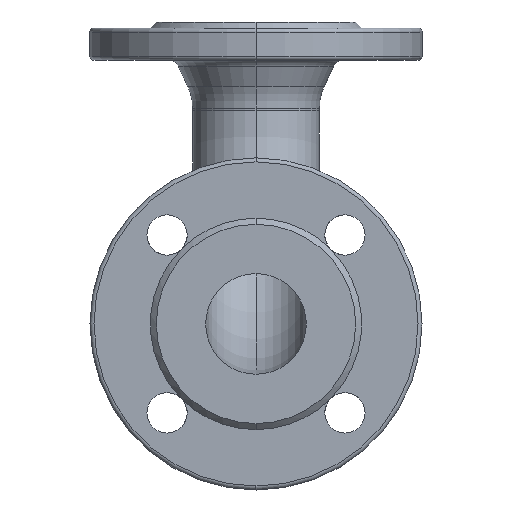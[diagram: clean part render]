
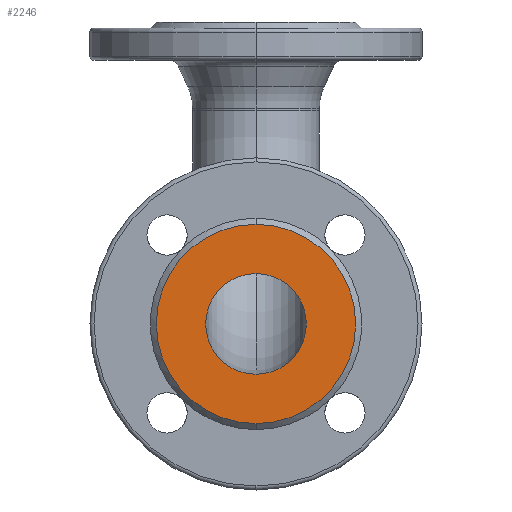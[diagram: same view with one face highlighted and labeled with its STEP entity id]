
A CAD part, left-side view. The second image highlights one B-rep face of the part: STEP entity #2246.
In plain terms, the highlighted planar face has unit normal (-1, 0, 0).
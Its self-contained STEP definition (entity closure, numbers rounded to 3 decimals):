
#80 = AXIS2_PLACEMENT_3D ( 'NONE', #1312, #1544, #2596 ) ;
#147 = CIRCLE ( 'NONE', #255, 25. ) ;
#185 = ORIENTED_EDGE ( 'NONE', *, *, #1021, .F. ) ;
#255 = AXIS2_PLACEMENT_3D ( 'NONE', #2500, #1725, #1232 ) ;
#495 = EDGE_LOOP ( 'NONE', ( #185, #2450 ) ) ;
#520 = DIRECTION ( 'NONE',  ( 1., 0., 0. ) ) ;
#529 = VERTEX_POINT ( 'NONE', #2278 ) ;
#654 = VERTEX_POINT ( 'NONE', #2329 ) ;
#757 = CARTESIAN_POINT ( 'NONE',  ( -150., 0., -199.5 ) ) ;
#804 = CARTESIAN_POINT ( 'NONE',  ( -150., 0., -175. ) ) ;
#846 = CIRCLE ( 'NONE', #80, 49.5 ) ;
#1021 = EDGE_CURVE ( 'NONE', #529, #3180, #1944, .T. ) ;
#1065 = EDGE_CURVE ( 'Defeatured_0_11+Defeatured_0_3+Defeatured_0_3+Defeatured_0_3', #654, #2254, #846, .T. ) ;
#1232 = DIRECTION ( 'NONE',  ( 0., 0., 1. ) ) ;
#1312 = CARTESIAN_POINT ( 'NONE',  ( -150., 0., -150. ) ) ;
#1417 = EDGE_LOOP ( 'NONE', ( #2300, #2171 ) ) ;
#1544 = DIRECTION ( 'NONE',  ( 1., 0., 0. ) ) ;
#1560 = DIRECTION ( 'NONE',  ( 0., 0., -1. ) ) ;
#1618 = AXIS2_PLACEMENT_3D ( 'NONE', #2049, #520, #1560 ) ;
#1725 = DIRECTION ( 'NONE',  ( -1., 0., 0. ) ) ;
#1944 = CIRCLE ( 'NONE', #3307, 25. ) ;
#2049 = CARTESIAN_POINT ( 'NONE',  ( -150., 0., -150. ) ) ;
#2171 = ORIENTED_EDGE ( 'NONE', *, *, #1065, .F. ) ;
#2229 = DIRECTION ( 'NONE',  ( 0., 0., -1. ) ) ;
#2246 = ADVANCED_FACE ( 'Defeatured_0_3', ( #3331, #3137 ), #3067, .F. ) ;
#2254 = VERTEX_POINT ( 'NONE', #757 ) ;
#2278 = CARTESIAN_POINT ( 'NONE',  ( -150., 0., -125. ) ) ;
#2282 = CIRCLE ( 'NONE', #3041, 49.5 ) ;
#2300 = ORIENTED_EDGE ( 'NONE', *, *, #2778, .F. ) ;
#2329 = CARTESIAN_POINT ( 'NONE',  ( -150., 0., -100.5 ) ) ;
#2436 = CARTESIAN_POINT ( 'NONE',  ( -150., 0., -150. ) ) ;
#2450 = ORIENTED_EDGE ( 'NONE', *, *, #2931, .F. ) ;
#2500 = CARTESIAN_POINT ( 'NONE',  ( -150., 0., -150. ) ) ;
#2596 = DIRECTION ( 'NONE',  ( 0., 0., -1. ) ) ;
#2678 = DIRECTION ( 'NONE',  ( 1., 0., 0. ) ) ;
#2778 = EDGE_CURVE ( 'Defeatured_0_11+Defeatured_0_3+Defeatured_0_3+Defeatured_0_3', #2254, #654, #2282, .T. ) ;
#2832 = DIRECTION ( 'NONE',  ( -1., 0., 0. ) ) ;
#2931 = EDGE_CURVE ( 'NONE', #3180, #529, #147, .T. ) ;
#3041 = AXIS2_PLACEMENT_3D ( 'NONE', #2436, #2678, #2229 ) ;
#3067 = PLANE ( 'NONE',  #1618 ) ;
#3121 = DIRECTION ( 'NONE',  ( 0., 0., 1. ) ) ;
#3137 = FACE_OUTER_BOUND ( 'NONE', #1417, .T. ) ;
#3142 = CARTESIAN_POINT ( 'NONE',  ( -150., 0., -150. ) ) ;
#3180 = VERTEX_POINT ( 'NONE', #804 ) ;
#3307 = AXIS2_PLACEMENT_3D ( 'NONE', #3142, #2832, #3121 ) ;
#3331 = FACE_BOUND ( 'NONE', #495, .T. ) ;
